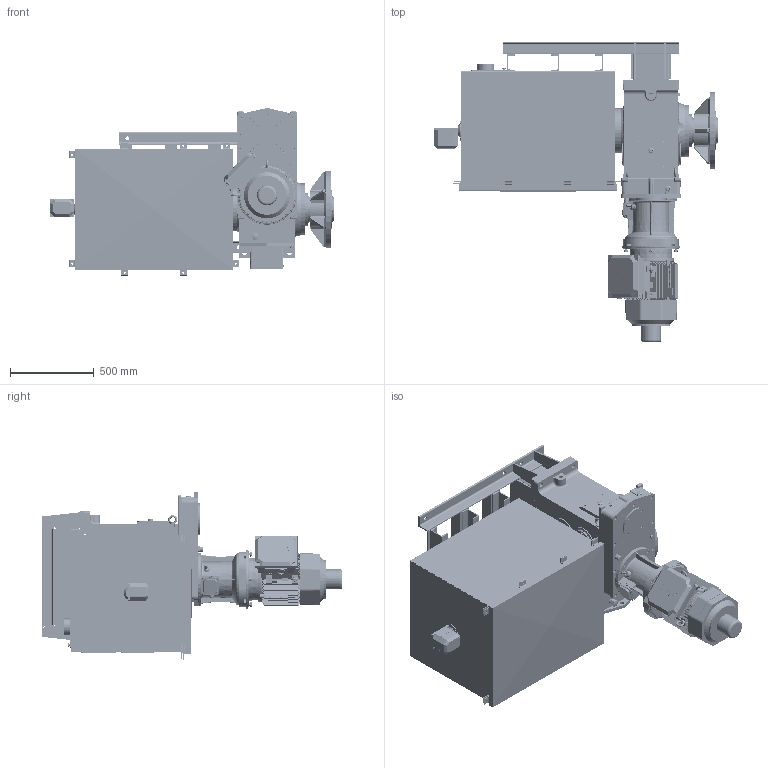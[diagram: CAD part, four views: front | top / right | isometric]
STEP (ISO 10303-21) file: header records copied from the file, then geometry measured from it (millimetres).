
FILE_DESCRIPTION(/* description */ (''),/* implementation_level */ '2;1');
FILE_NAME(/* name */ 'K:\NEMANJA\CABLE REEL\CABLE REEL DA\0700-6\07006005 DA-CRVD\STEP\76972.stp',/* time_stamp */ '2017-03-16T14:03:31+01:00',/* author */ ('zeldjo01'),/* organization */ ('Hillmar Industries Ltd.'),/* preprocessor_version */ 'ST-DEVELOPER v16.1',/* originating_system */ 'Autodesk Inventor 2016',/* authorisation */ '');
FILE_SCHEMA (('AUTOMOTIVE_DESIGN { 1 0 10303 214 3 1 1 }'));
Products named in the file (1): 76972
Bounding box: 1698.14 x 1796.59 x 999.12 mm (x, y, z)
Volume: 132012996.9 mm3; surface area: 18469377.5 mm2
Topology: 12 solids, 12 shells, 5809 faces, 15410 edges, 9937 vertices
Faces by surface type: plane 2700, cylinder 1695, bspline 603, cone 532, torus 244, sphere 35
Full cylindrical faces by diameter (mm): 7 x4, 8 x2, 8.376 x16, 8.731 x1, 9 x6, 10 x25, 10.106 x85, 10.38 x1, 10.4 x4, 11 x32, 11.053 x3, 12 x12, 12.5 x6, 13 x39, 13.2 x1, 13.5 x16, 14 x28, 14.917 x4, 15 x1, 16 x5, 16.974 x2, 17.2 x3, 17.475 x1, 18 x4, 18.256 x3, 18.38 x4, 19 x4, 20 x26, 20.5 x4, 22 x26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
Entity records: 198073 total; most frequent: CARTESIAN_POINT 56425, ORIENTED_EDGE 28288, DIRECTION 26854, EDGE_CURVE 14126, AXIS2_PLACEMENT_3D 9751, VERTEX_POINT 9476, LINE 7352, VECTOR 7352
